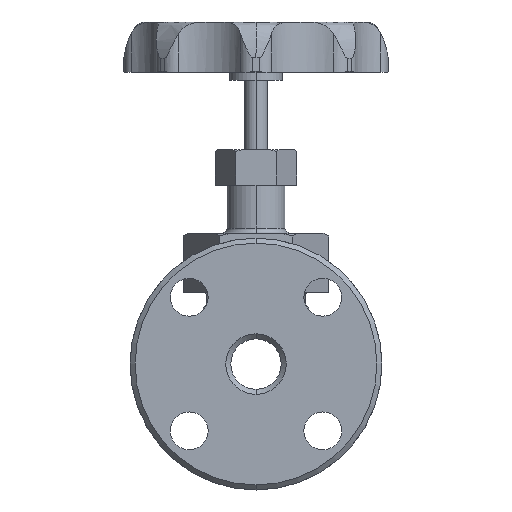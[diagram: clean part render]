
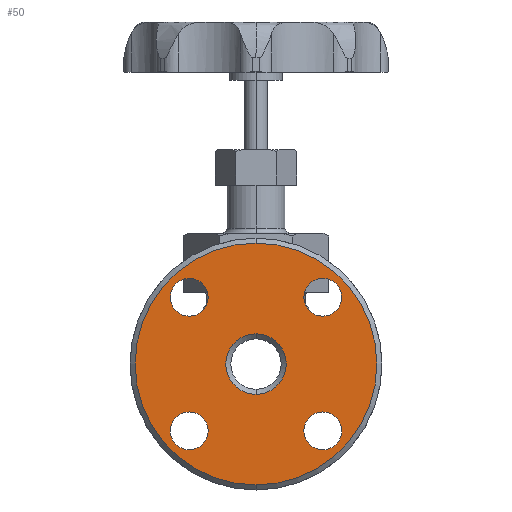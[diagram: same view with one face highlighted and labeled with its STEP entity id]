
A CAD part, left-side view. The second image highlights one B-rep face of the part: STEP entity #50.
In plain terms, the highlighted planar face has unit normal (-1, 0, 0).
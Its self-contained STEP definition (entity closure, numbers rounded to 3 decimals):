
#50=ADVANCED_FACE('',(#365,#366,#367,#368,#369,#370),#364,.F.);
#364=PLANE('',#2607);
#365=FACE_OUTER_BOUND('',#2608,.T.);
#366=FACE_BOUND('',#2609,.T.);
#367=FACE_BOUND('',#2610,.T.);
#368=FACE_BOUND('',#2611,.T.);
#369=FACE_BOUND('',#2612,.T.);
#370=FACE_BOUND('',#2613,.T.);
#2604=CARTESIAN_POINT('',(-58.5,-93.138,58.));
#2605=DIRECTION('',(1.,0.,0.));
#2606=DIRECTION('',(0.,0.,-1.));
#2607=AXIS2_PLACEMENT_3D('',#2604,#2605,#2606);
#2608=EDGE_LOOP('',(#4269,#4270));
#2609=EDGE_LOOP('',(#4271,#4272));
#2610=EDGE_LOOP('',(#4273,#4274));
#2611=EDGE_LOOP('',(#4275,#4276));
#2612=EDGE_LOOP('',(#4277,#4278));
#2613=EDGE_LOOP('',(#4279,#4280));
#4269=ORIENTED_EDGE('',*,*,#5593,.T.);
#4270=ORIENTED_EDGE('',*,*,#5594,.T.);
#4271=ORIENTED_EDGE('',*,*,#5595,.T.);
#4272=ORIENTED_EDGE('',*,*,#5596,.T.);
#4273=ORIENTED_EDGE('',*,*,#5597,.F.);
#4274=ORIENTED_EDGE('',*,*,#5598,.F.);
#4275=ORIENTED_EDGE('',*,*,#5599,.T.);
#4276=ORIENTED_EDGE('',*,*,#5600,.T.);
#4277=ORIENTED_EDGE('',*,*,#5601,.T.);
#4278=ORIENTED_EDGE('',*,*,#5602,.T.);
#4279=ORIENTED_EDGE('',*,*,#5603,.T.);
#4280=ORIENTED_EDGE('',*,*,#5604,.T.);
#5593=EDGE_CURVE('',#6523,#6524,#6525,.T.);
#5594=EDGE_CURVE('',#6524,#6523,#6531,.T.);
#5595=EDGE_CURVE('',#6537,#6538,#6539,.T.);
#5596=EDGE_CURVE('',#6538,#6537,#6545,.T.);
#5597=EDGE_CURVE('',#6551,#6552,#6553,.T.);
#5598=EDGE_CURVE('',#6552,#6551,#6559,.T.);
#5599=EDGE_CURVE('',#6565,#6566,#6567,.T.);
#5600=EDGE_CURVE('',#6566,#6565,#6573,.T.);
#5601=EDGE_CURVE('',#6579,#6580,#6581,.T.);
#5602=EDGE_CURVE('',#6580,#6579,#6587,.T.);
#5603=EDGE_CURVE('',#6593,#6594,#6595,.T.);
#5604=EDGE_CURVE('',#6594,#6593,#6601,.T.);
#6523=VERTEX_POINT('',#10923);
#6524=VERTEX_POINT('',#10924);
#6525=CIRCLE('',#10928,48.);
#6531=CIRCLE('',#10932,48.);
#6537=VERTEX_POINT('',#10933);
#6538=VERTEX_POINT('',#10934);
#6539=CIRCLE('',#10938,7.5);
#6545=CIRCLE('',#10942,7.5);
#6551=VERTEX_POINT('',#10943);
#6552=VERTEX_POINT('',#10944);
#6553=CIRCLE('',#10948,12.);
#6559=CIRCLE('',#10952,12.);
#6565=VERTEX_POINT('',#10953);
#6566=VERTEX_POINT('',#10954);
#6567=CIRCLE('',#10958,7.5);
#6573=CIRCLE('',#10962,7.5);
#6579=VERTEX_POINT('',#10963);
#6580=VERTEX_POINT('',#10964);
#6581=CIRCLE('',#10968,7.5);
#6587=CIRCLE('',#10972,7.5);
#6593=VERTEX_POINT('',#10973);
#6594=VERTEX_POINT('',#10974);
#6595=CIRCLE('',#10978,7.5);
#6601=CIRCLE('',#10982,7.5);
#10923=CARTESIAN_POINT('',(-58.5,0.,48.));
#10924=CARTESIAN_POINT('',(-58.5,0.,-48.));
#10925=CARTESIAN_POINT('',(-58.5,0.,0.));
#10926=DIRECTION('',(-1.,0.,0.));
#10927=DIRECTION('',(0.,0.,1.));
#10928=AXIS2_PLACEMENT_3D('',#10925,#10926,#10927);
#10929=CARTESIAN_POINT('',(-58.5,0.,0.));
#10930=DIRECTION('',(-1.,0.,0.));
#10931=DIRECTION('',(0.,0.,1.));
#10932=AXIS2_PLACEMENT_3D('',#10929,#10930,#10931);
#10933=CARTESIAN_POINT('',(-58.5,-26.517,-19.017));
#10934=CARTESIAN_POINT('',(-58.5,-26.517,-34.017));
#10935=CARTESIAN_POINT('',(-58.5,-26.517,-26.517));
#10936=DIRECTION('',(1.,0.,0.));
#10937=DIRECTION('',(0.,0.,1.));
#10938=AXIS2_PLACEMENT_3D('',#10935,#10936,#10937);
#10939=CARTESIAN_POINT('',(-58.5,-26.517,-26.517));
#10940=DIRECTION('',(1.,0.,0.));
#10941=DIRECTION('',(0.,0.,1.));
#10942=AXIS2_PLACEMENT_3D('',#10939,#10940,#10941);
#10943=CARTESIAN_POINT('',(-58.5,0.,-12.));
#10944=CARTESIAN_POINT('',(-58.5,0.,12.));
#10945=CARTESIAN_POINT('',(-58.5,0.,0.));
#10946=DIRECTION('',(-1.,0.,0.));
#10947=DIRECTION('',(0.,0.,1.));
#10948=AXIS2_PLACEMENT_3D('',#10945,#10946,#10947);
#10949=CARTESIAN_POINT('',(-58.5,0.,0.));
#10950=DIRECTION('',(-1.,0.,0.));
#10951=DIRECTION('',(0.,0.,1.));
#10952=AXIS2_PLACEMENT_3D('',#10949,#10950,#10951);
#10953=CARTESIAN_POINT('',(-58.5,26.517,34.017));
#10954=CARTESIAN_POINT('',(-58.5,26.517,19.017));
#10955=CARTESIAN_POINT('',(-58.5,26.517,26.517));
#10956=DIRECTION('',(1.,0.,0.));
#10957=DIRECTION('',(0.,0.,1.));
#10958=AXIS2_PLACEMENT_3D('',#10955,#10956,#10957);
#10959=CARTESIAN_POINT('',(-58.5,26.517,26.517));
#10960=DIRECTION('',(1.,0.,0.));
#10961=DIRECTION('',(0.,0.,1.));
#10962=AXIS2_PLACEMENT_3D('',#10959,#10960,#10961);
#10963=CARTESIAN_POINT('',(-58.5,26.517,-19.017));
#10964=CARTESIAN_POINT('',(-58.5,26.517,-34.017));
#10965=CARTESIAN_POINT('',(-58.5,26.517,-26.517));
#10966=DIRECTION('',(1.,0.,0.));
#10967=DIRECTION('',(0.,0.,1.));
#10968=AXIS2_PLACEMENT_3D('',#10965,#10966,#10967);
#10969=CARTESIAN_POINT('',(-58.5,26.517,-26.517));
#10970=DIRECTION('',(1.,0.,0.));
#10971=DIRECTION('',(0.,0.,1.));
#10972=AXIS2_PLACEMENT_3D('',#10969,#10970,#10971);
#10973=CARTESIAN_POINT('',(-58.5,-26.517,34.017));
#10974=CARTESIAN_POINT('',(-58.5,-26.517,19.017));
#10975=CARTESIAN_POINT('',(-58.5,-26.517,26.517));
#10976=DIRECTION('',(1.,0.,0.));
#10977=DIRECTION('',(0.,0.,1.));
#10978=AXIS2_PLACEMENT_3D('',#10975,#10976,#10977);
#10979=CARTESIAN_POINT('',(-58.5,-26.517,26.517));
#10980=DIRECTION('',(1.,0.,0.));
#10981=DIRECTION('',(0.,0.,1.));
#10982=AXIS2_PLACEMENT_3D('',#10979,#10980,#10981);
